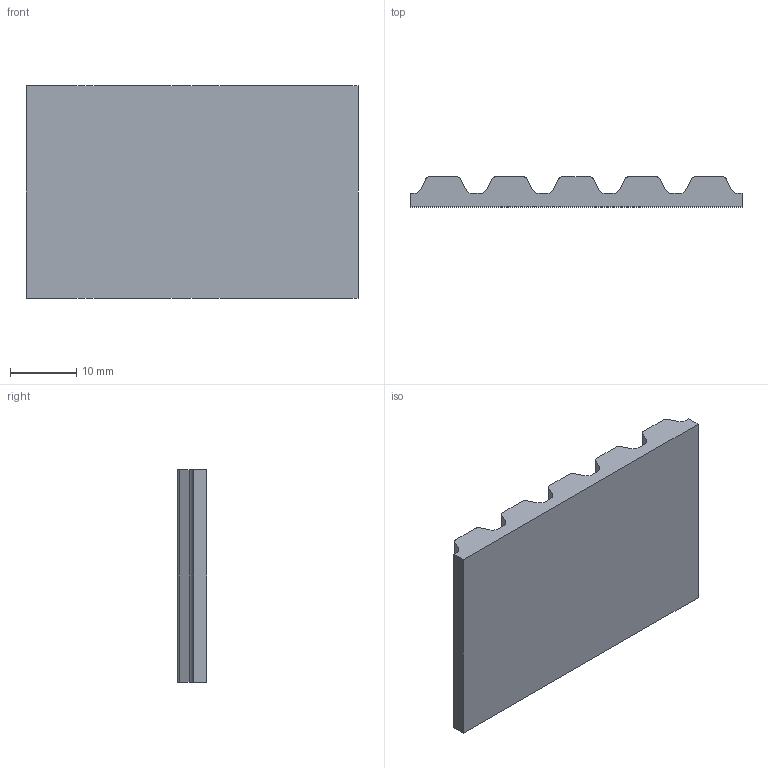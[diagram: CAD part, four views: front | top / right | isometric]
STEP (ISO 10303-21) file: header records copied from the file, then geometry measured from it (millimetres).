
FILE_DESCRIPTION( ( 'STEP AP214' ), '1' );
FILE_NAME( 'C:/Users/StangenbergN/Documents/CAD_Step/1/16881600.stp', '2020-01-10T19:51:09', ( '' ), ( '' ), ' ', 'PARTsolutions', ' ' );
FILE_SCHEMA( ( 'AUTOMOTIVE_DESIGN { 1 0 10303 214 1 1 1 1 }' ) );
Length unit declared in the file: millimetre
Products named in the file (1): _16881600
Bounding box: 50 x 4.5 x 32 mm (x, y, z)
Volume: 5690.4 mm3; surface area: 4112.9 mm2
Topology: 1 solids, 1 shells, 46 faces, 132 edges, 88 vertices
Faces by surface type: plane 26, cylinder 20
Entity records: 1900 total; most frequent: CARTESIAN_POINT 267, DIRECTION 266, ORIENTED_EDGE 264, EDGE_CURVE 132, LINE 92, VECTOR 92, VERTEX_POINT 88, AXIS2_PLACEMENT_3D 87
